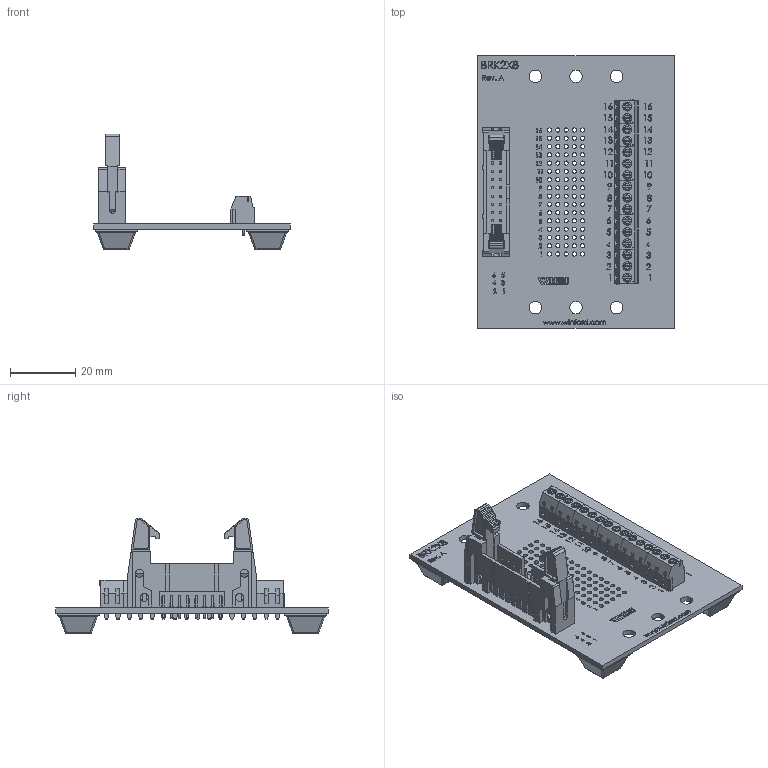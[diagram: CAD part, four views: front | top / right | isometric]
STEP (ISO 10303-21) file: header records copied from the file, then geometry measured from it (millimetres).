
FILE_DESCRIPTION (( 'STEP AP214' ), '1' );
FILE_NAME ('brk2x8-l-ft_rev_a.step', '2018-02-04T19:59:18', ( '' ), ( '' ), 'SwSTEP 2.0', 'SolidWorks 2017', '' );
FILE_SCHEMA (( 'AUTOMOTIVE_DESIGN' ));
Length unit declared in the file: inch
Products named in the file (6): Dual Row Header 2x8; BRK2X8 Board; brk2x8-l-ft_rev_a; Square Rubber Feet; Screw Terminal 3; Screw Terminal 2
Assembly tree (12 placements, depth 2):
  brk2x8-l-ft_rev_a
    BRK2X8 Board
    Dual Row Header 2x8
    Screw Terminal 2  x2
    Screw Terminal 3  x4
    Square Rubber Feet  x4
Bounding box: 60.45 x 83.82 x 35.54 mm (x, y, z)
Volume: 13650.8 mm3; surface area: 21916.4 mm2
Topology: 24 solids, 46 shells, 3571 faces, 9415 edges, 6126 vertices
Faces by surface type: plane 2505, bspline 573, cylinder 445, cone 16, torus 16, sphere 16
Full cylindrical faces by diameter (mm): 0.64 x2, 1.016 x15, 1.092 x16, 1.27 x80, 2 x32, 2.3 x4, 2.4 x2, 2.5 x4, 2.68 x16, 2.75 x16, 3.81 x6
Entity records: 128397 total; most frequent: CARTESIAN_POINT 47747, ORIENTED_EDGE 13403, DIRECTION 10268, EDGE_CURVE 6709, LINE 4956, VECTOR 4956, VERTEX_POINT 4469, EDGE_LOOP 3230
